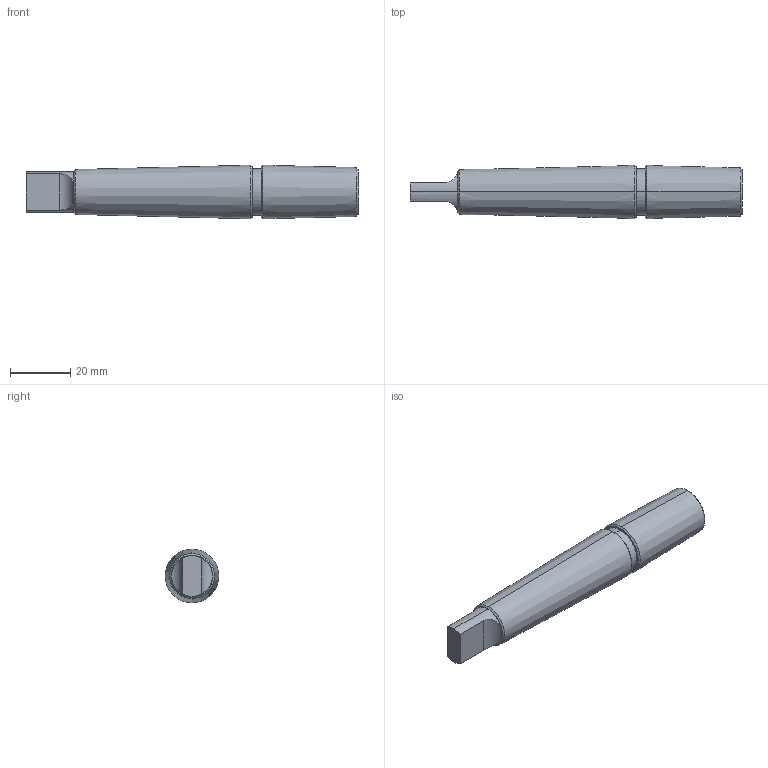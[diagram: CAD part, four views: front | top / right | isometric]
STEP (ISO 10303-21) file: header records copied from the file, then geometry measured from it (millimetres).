
FILE_DESCRIPTION (( 'STEP AP203' ), '1' );
FILE_NAME ('042J000046 Taper shank MT2-B18.STEP', '2009-09-03T14:04:33', ( 'HP' ), ( '' ), 'SwSTEP 2.0', 'SolidWorks 2008', '' );
FILE_SCHEMA (( 'CONFIG_CONTROL_DESIGN' ));
Length unit declared in the file: millimetre
Products named in the file (1): 042J000046 Taper shank MT2-B18
Bounding box: 110 x 17.76 x 17.76 mm (x, y, z)
Volume: 21574.5 mm3; surface area: 5877.8 mm2
Topology: 1 solids, 1 shells, 26 faces, 53 edges, 32 vertices
Faces by surface type: cone 12, cylinder 7, plane 7
Entity records: 844 total; most frequent: CARTESIAN_POINT 204, DIRECTION 129, ORIENTED_EDGE 106, EDGE_CURVE 53, AXIS2_PLACEMENT_3D 53, VERTEX_POINT 32, EDGE_LOOP 29, ADVANCED_FACE 26
